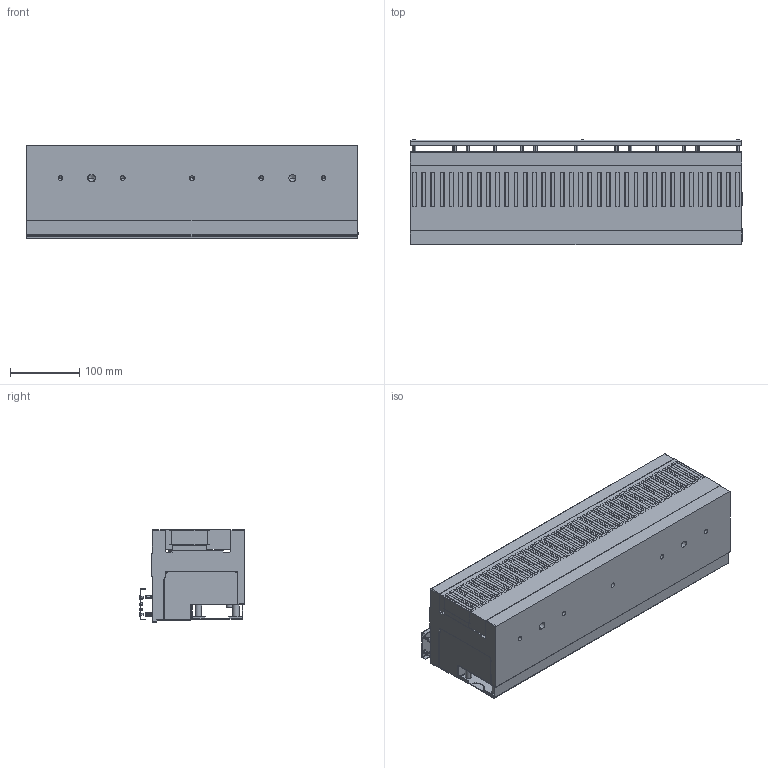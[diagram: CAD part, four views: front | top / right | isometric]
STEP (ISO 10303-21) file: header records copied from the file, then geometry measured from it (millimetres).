
FILE_DESCRIPTION (( 'STEP AP214' ), '1' );
FILE_NAME ('FTS-MT.SUB001.STEP', '2025-02-07T06:06:43', ( '' ), ( '' ), 'SwSTEP 2.0', 'SolidWorks 2021', '' );
FILE_SCHEMA (( 'AUTOMOTIVE_DESIGN' ));
Length unit declared in the file: millimetre
Products named in the file (10): H5-M3×9＋6+六角铁柱镀镍+国产; M3x4-内六角平圆头-全牙-12.9级-碳钢-镀锌+螺钉+国产; FTS-MT.SUB001.0003_默认<按加工>; FTS-MT.SUB001; FTS-MT.SUB001.0005; LDT3.0-L3.2+导光柱+国产; FTS-MT.SUB001.0001; DDL480-94-CG+480mm×50mm直线线圈+上海会通; FTS-MT.SUB001.0002; FTS-MT.SUB001.0004
Assembly tree (39 placements, depth 2):
  FTS-MT.SUB001
    FTS-MT.SUB001.0001
    FTS-MT.SUB001.0002
    FTS-MT.SUB001.0003_默认<按加工>
    FTS-MT.SUB001.0004
    FTS-MT.SUB001.0005
    DDL480-94-CG+480mm×50mm直线线圈+上海会通
    LDT3.0-L3.2+导光柱+国产  x3
    H5-M3×9＋6+六角铁柱镀镍+国产  x16
    M3x4-内六角平圆头-全牙-12.9级-碳钢-镀锌+螺钉+国产  x14
Bounding box: 479.6 x 152.65 x 133 mm (x, y, z)
Volume: 5286584.8 mm3; surface area: 1273670.7 mm2
Topology: 111 solids, 111 shells, 3414 faces, 8516 edges, 5445 vertices
Faces by surface type: plane 1586, cylinder 1364, cone 338, torus 56, bspline 48, sphere 22
Entity records: 109036 total; most frequent: CARTESIAN_POINT 18116, DIRECTION 15532, ORIENTED_EDGE 14364, EDGE_CURVE 7182, AXIS2_PLACEMENT_3D 5654, VERTEX_POINT 4678, VECTOR 4224, LINE 4224
